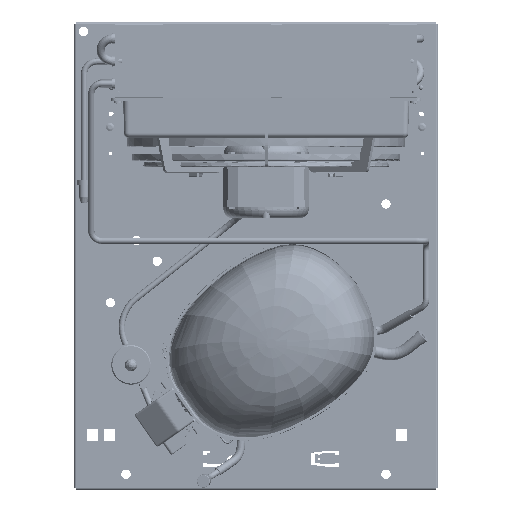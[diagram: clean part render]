
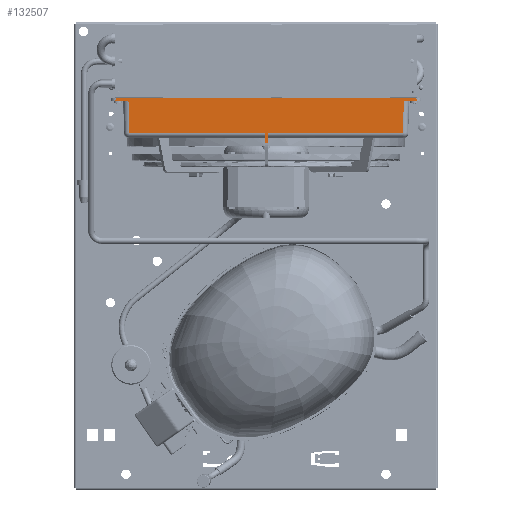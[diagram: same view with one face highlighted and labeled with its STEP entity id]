
A CAD part, top view. The second image highlights one B-rep face of the part: STEP entity #132507.
In plain terms, the highlighted planar face has unit normal (0, -0.018, 1) as drawn and (0, 1, 0.017) by its records, which use the part's own axes.
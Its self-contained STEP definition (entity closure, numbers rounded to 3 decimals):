
#3204=B_SPLINE_CURVE_WITH_KNOTS('',3,(#251256,#251257,#251258,#251259,#251260,
#251261,#251262,#251263,#251264,#251265),.UNSPECIFIED.,.F.,.F.,(4,1,1,1,
1,1,1,4),(0.,0.001,0.001,
0.001,0.002,0.002,0.002,
0.002),.UNSPECIFIED.);
#3205=B_SPLINE_CURVE_WITH_KNOTS('',3,(#251407,#251408,#251409,#251410,#251411,
#251412,#251413,#251414,#251415,#251416),.UNSPECIFIED.,.F.,.F.,(4,1,1,1,
1,1,1,4),(0.,0.001,0.001,
0.001,0.002,0.002,0.002,
0.002),.UNSPECIFIED.);
#48236=ORIENTED_EDGE('',*,*,#74400,.F.);
#48237=ORIENTED_EDGE('',*,*,#74401,.T.);
#48238=ORIENTED_EDGE('',*,*,#74402,.T.);
#48239=ORIENTED_EDGE('',*,*,#72768,.F.);
#48240=ORIENTED_EDGE('',*,*,#74314,.T.);
#48241=ORIENTED_EDGE('',*,*,#72719,.F.);
#48242=ORIENTED_EDGE('',*,*,#74385,.F.);
#48243=ORIENTED_EDGE('',*,*,#72743,.T.);
#48244=ORIENTED_EDGE('',*,*,#74403,.T.);
#48245=ORIENTED_EDGE('',*,*,#74404,.T.);
#48246=ORIENTED_EDGE('',*,*,#74405,.T.);
#48247=ORIENTED_EDGE('',*,*,#74406,.F.);
#72719=EDGE_CURVE('',#87335,#87336,#97204,.T.);
#72743=EDGE_CURVE('',#87359,#87360,#97224,.T.);
#72768=EDGE_CURVE('',#87384,#87385,#97244,.T.);
#74314=EDGE_CURVE('',#87384,#87336,#3204,.T.);
#74385=EDGE_CURVE('',#87359,#87335,#3205,.T.);
#74400=EDGE_CURVE('',#88447,#88448,#97656,.T.);
#74401=EDGE_CURVE('',#88447,#88449,#97657,.F.);
#74402=EDGE_CURVE('',#88449,#87385,#97658,.F.);
#74403=EDGE_CURVE('',#87360,#88450,#97659,.T.);
#74404=EDGE_CURVE('',#88450,#88451,#97660,.F.);
#74405=EDGE_CURVE('',#88451,#88452,#97661,.T.);
#74406=EDGE_CURVE('',#88448,#88452,#97662,.T.);
#87335=VERTEX_POINT('',#214591);
#87336=VERTEX_POINT('',#214593);
#87359=VERTEX_POINT('',#214641);
#87360=VERTEX_POINT('',#214642);
#87384=VERTEX_POINT('',#214691);
#87385=VERTEX_POINT('',#214693);
#88447=VERTEX_POINT('',#251448);
#88448=VERTEX_POINT('',#251449);
#88449=VERTEX_POINT('',#251451);
#88450=VERTEX_POINT('',#251454);
#88451=VERTEX_POINT('',#251456);
#88452=VERTEX_POINT('',#251458);
#97204=LINE('',#214592,#104231);
#97224=LINE('',#214640,#104251);
#97244=LINE('',#214692,#104271);
#97656=LINE('',#251447,#104683);
#97657=LINE('',#251450,#104684);
#97658=LINE('',#251452,#104685);
#97659=LINE('',#251453,#104686);
#97660=LINE('',#251455,#104687);
#97661=LINE('',#251457,#104688);
#97662=LINE('',#251459,#104689);
#104231=VECTOR('',#154062,1000.);
#104251=VECTOR('',#154092,1000.);
#104271=VECTOR('',#154124,1000.);
#104683=VECTOR('',#155872,1000.);
#104684=VECTOR('',#155873,1000.);
#104685=VECTOR('',#155874,1000.);
#104686=VECTOR('',#155875,1000.);
#104687=VECTOR('',#155876,1000.);
#104688=VECTOR('',#155877,1000.);
#104689=VECTOR('',#155878,1000.);
#112394=EDGE_LOOP('',(#48236,#48237,#48238,#48239,#48240,#48241,#48242,
#48243,#48244,#48245,#48246,#48247));
#120894=FACE_BOUND('',#112394,.T.);
#126762=PLANE('',#140722);
#132507=ADVANCED_FACE('',(#120894),#126762,.F.);
#140722=AXIS2_PLACEMENT_3D('',#251446,#155870,#155871);
#154062=DIRECTION('',(1.,0.,0.));
#154092=DIRECTION('',(1.,0.,0.));
#154124=DIRECTION('',(-1.,0.,0.));
#155870=DIRECTION('',(0.,-1.,-0.017));
#155871=DIRECTION('',(0.,0.017,-1.));
#155872=DIRECTION('',(0.,-0.017,1.));
#155873=DIRECTION('',(-1.,0.,0.));
#155874=DIRECTION('',(-0.017,-0.017,1.));
#155875=DIRECTION('',(0.017,-0.017,1.));
#155876=DIRECTION('',(-1.,0.,0.));
#155877=DIRECTION('',(0.,-0.017,1.));
#155878=DIRECTION('',(-1.,0.,0.));
#214591=CARTESIAN_POINT('',(-144.375,138.363,0.));
#214592=CARTESIAN_POINT('',(-144.375,138.363,0.));
#214593=CARTESIAN_POINT('',(144.375,138.363,0.));
#214640=CARTESIAN_POINT('',(140.869,138.328,2.));
#214641=CARTESIAN_POINT('',(-144.965,138.328,2.));
#214642=CARTESIAN_POINT('',(-132.329,138.328,2.));
#214691=CARTESIAN_POINT('',(144.965,138.328,2.));
#214692=CARTESIAN_POINT('',(140.869,138.328,2.));
#214693=CARTESIAN_POINT('',(132.329,138.328,2.));
#251256=CARTESIAN_POINT('',(144.965,138.328,2.));
#251257=CARTESIAN_POINT('',(144.939,138.331,1.824));
#251258=CARTESIAN_POINT('',(144.884,138.338,1.472));
#251259=CARTESIAN_POINT('',(144.802,138.345,1.035));
#251260=CARTESIAN_POINT('',(144.723,138.351,0.688));
#251261=CARTESIAN_POINT('',(144.653,138.356,0.431));
#251262=CARTESIAN_POINT('',(144.577,138.359,0.22));
#251263=CARTESIAN_POINT('',(144.492,138.362,0.066));
#251264=CARTESIAN_POINT('',(144.42,138.363,0.));
#251265=CARTESIAN_POINT('',(144.375,138.363,0.));
#251407=CARTESIAN_POINT('',(-144.965,138.328,2.));
#251408=CARTESIAN_POINT('',(-144.939,138.331,1.824));
#251409=CARTESIAN_POINT('',(-144.884,138.338,1.472));
#251410=CARTESIAN_POINT('',(-144.802,138.345,1.035));
#251411=CARTESIAN_POINT('',(-144.723,138.351,0.688));
#251412=CARTESIAN_POINT('',(-144.653,138.356,0.431));
#251413=CARTESIAN_POINT('',(-144.577,138.359,0.22));
#251414=CARTESIAN_POINT('',(-144.492,138.362,0.066));
#251415=CARTESIAN_POINT('',(-144.42,138.363,0.));
#251416=CARTESIAN_POINT('',(-144.375,138.363,0.));
#251446=CARTESIAN_POINT('',(432.954,137.811,31.613));
#251447=CARTESIAN_POINT('',(1.5,137.617,42.731));
#251448=CARTESIAN_POINT('',(1.5,137.786,33.087));
#251449=CARTESIAN_POINT('',(1.5,137.617,42.731));
#251450=CARTESIAN_POINT('',(432.954,137.786,33.087));
#251451=CARTESIAN_POINT('',(131.787,137.786,33.087));
#251452=CARTESIAN_POINT('',(132.331,138.33,1.913));
#251453=CARTESIAN_POINT('',(-131.702,137.702,37.913));
#251454=CARTESIAN_POINT('',(-131.787,137.786,33.087));
#251455=CARTESIAN_POINT('',(432.954,137.786,33.087));
#251456=CARTESIAN_POINT('',(-1.5,137.786,33.087));
#251457=CARTESIAN_POINT('',(-1.5,137.617,42.731));
#251458=CARTESIAN_POINT('',(-1.5,137.617,42.731));
#251459=CARTESIAN_POINT('',(1.5,137.617,42.731));
